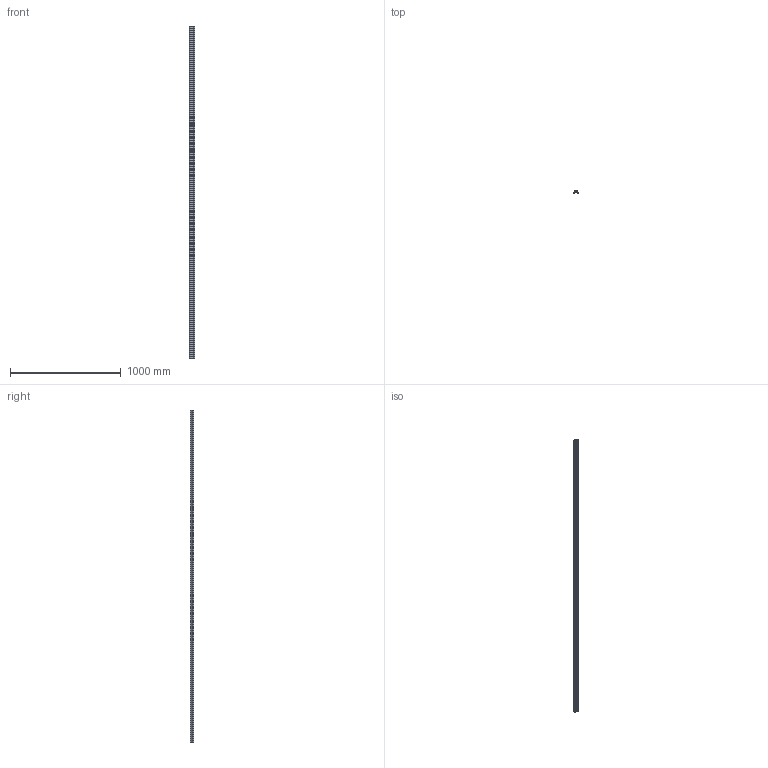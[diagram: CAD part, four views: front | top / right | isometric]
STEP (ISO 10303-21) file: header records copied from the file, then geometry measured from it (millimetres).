
FILE_DESCRIPTION(/* description */ (''),/* implementation_level */ '2;1');
FILE_NAME(/* name */ 'C:\Users\Umar\Desktop\2231-030.stp',/* time_stamp */ '2019-10-08T09:20:11+01:00',/* author */ ('umar'),/* organization */ (''),/* preprocessor_version */ 'ST-DEVELOPER v18',/* originating_system */ 'Autodesk Inventor 2020',/* authorisation */ '');
FILE_SCHEMA (('AUTOMOTIVE_DESIGN { 1 0 10303 214 3 1 1 }'));
Length unit declared in the file: millimetre
Products named in the file (1): 2231-030
Bounding box: 49.96 x 28.15 x 3000 mm (x, y, z)
Volume: 1141011.9 mm3; surface area: 547860.6 mm2
Topology: 1 solids, 1 shells, 54 faces, 156 edges, 104 vertices
Faces by surface type: cylinder 32, plane 22
Entity records: 1845 total; most frequent: DIRECTION 330, CARTESIAN_POINT 315, ORIENTED_EDGE 312, EDGE_CURVE 156, AXIS2_PLACEMENT_3D 119, VERTEX_POINT 104, LINE 92, VECTOR 92
